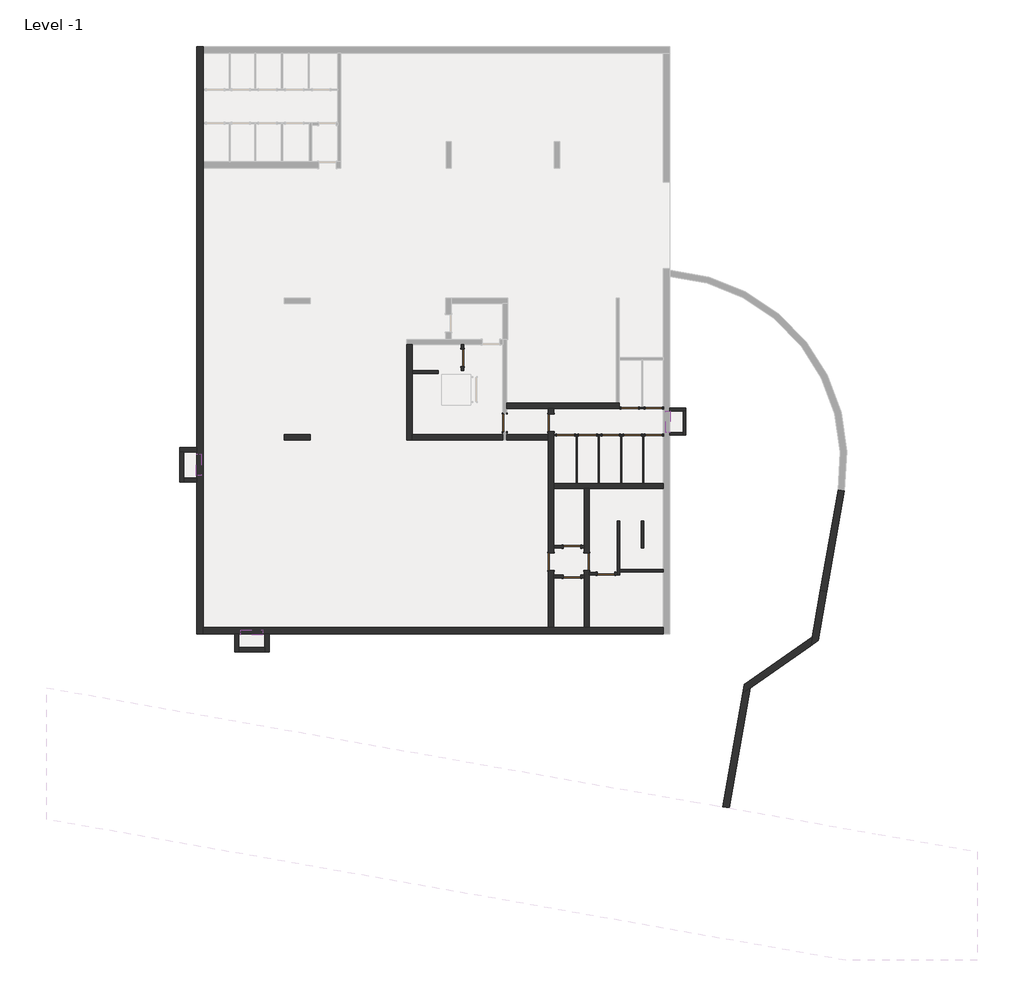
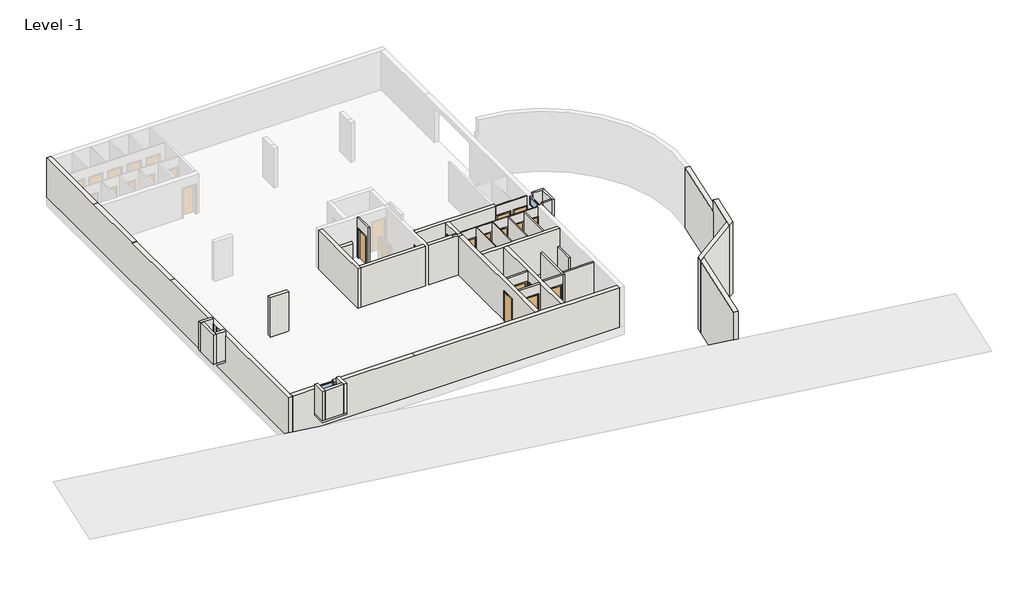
# One storey, part 1 of 2: 37 walls, 15 doors, 3 windows.
"""IFC4 building model written with IfcOpenShell, lengths in millimetres."""

from ifc_helpers import new_model, si_unit, frame, origin, place, context, project, spatial, polyline, outline, extrude, faceted_brep, transform, mapped, element, save
from components import standard_door_sd_800x2000_0203fe2f, standard_door_sd_800x2000_125e4961, standard_door_sd_800x2000_3ea96131, standard_door_sd_800x2000_59be3646, standard_door_sd_800x2000_e6dfe1af, standard_door_sd_800x2000_b5de6549, standard_door_sd_800x2000_c4456082, window_043d948e, window_b9e24ea9

model = new_model("IFC4")

# Units and contexts
model_context = context("Model", 3, world=origin())
ifc_project = project(units=[si_unit("LENGTHUNIT", "METRE", prefix="MILLI")], contexts=[model_context])

# Site, building, storey
site = spatial("IfcSite", under=ifc_project)
building = spatial("IfcBuilding", under=site)
storey = spatial("IfcBuildingStorey", under=building, Name="Level -1", Elevation=-3100.0)

# Doors
placement = place(None, origin())
standard_door_sd_800x2000_shape = standard_door_sd_800x2000_0203fe2f(model_context)
element("IfcDoor", 1, ObjectType="Standard Door : SD 800x2000", at=placement, inside=storey, context=model_context, shape_type="MappedRepresentation", body=[
    mapped(standard_door_sd_800x2000_shape, transform((5451.4088399, -7707.3709459, -3100.0), x_axis=(0.0, 0.9999999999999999, 0.0), y_axis=(-0.9999999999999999, 0.0, 0.0), z_axis=(0.0, 0.0, 1.0))),
])
standard_door_sd_800x2000_2_shape = standard_door_sd_800x2000_125e4961(model_context)
element("IfcDoor", 2, ObjectType="Standard Door : SD 800x2000", at=placement, inside=storey, context=model_context, shape_type="MappedRepresentation", body=[
    mapped(standard_door_sd_800x2000_2_shape, transform((4474.7387088, -1857.3709459, -3100.0), x_axis=(-1.0, 0.0, 0.0), y_axis=(0.0, -1.0, 0.0), z_axis=(0.0, 0.0, 1.0))),
])
element("IfcDoor", 3, ObjectType="Standard Door : SD 800x2000", at=placement, inside=storey, context=model_context, shape_type="MappedRepresentation", body=[
    mapped(standard_door_sd_800x2000_2_shape, transform((5492.9551797, -1857.3709459, -3100.0), x_axis=(-1.0, 0.0, 0.0), y_axis=(0.0, -1.0, 0.0), z_axis=(0.0, 0.0, 1.0))),
])
element("IfcDoor", 4, ObjectType="Standard Door : SD 800x2000", at=placement, inside=storey, context=model_context, shape_type="MappedRepresentation", body=[
    mapped(standard_door_sd_800x2000_2_shape, transform((6562.3417933, -1857.3709459, -3100.0), x_axis=(-1.0, 0.0, 0.0), y_axis=(0.0, -1.0, 0.0), z_axis=(0.0, 0.0, 1.0))),
])
element("IfcDoor", 5, ObjectType="Standard Door : SD 800x2000", at=placement, inside=storey, context=model_context, shape_type="MappedRepresentation", body=[
    mapped(standard_door_sd_800x2000_2_shape, transform((7572.2233412, -1857.3709459, -3100.0), x_axis=(-1.0, 0.0, 0.0), y_axis=(0.0, -1.0, 0.0), z_axis=(0.0, 0.0, 1.0))),
])
element("IfcDoor", 6, ObjectType="Standard Door : SD 800x2000", at=placement, inside=storey, context=model_context, shape_type="MappedRepresentation", body=[
    mapped(standard_door_sd_800x2000_2_shape, transform((8546.4088399, -1857.3709459, -3100.0), x_axis=(-1.0, 0.0, 0.0), y_axis=(0.0, -1.0, 0.0), z_axis=(0.0, 0.0, 1.0))),
])
standard_door_sd_800x2000_3_shape = standard_door_sd_800x2000_3ea96131(model_context)
element("IfcDoor", 7, ObjectType="Standard Door : SD 800x2000", at=placement, inside=storey, context=model_context, shape_type="MappedRepresentation", body=[
    mapped(standard_door_sd_800x2000_3_shape, transform((8546.4088399, -607.3709459, -3100.0), x_axis=(-0.9999999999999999, 0.0, 0.0), y_axis=(0.0, -0.9999999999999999, 0.0), z_axis=(0.0, 0.0, 1.0))),
])
element("IfcDoor", 8, ObjectType="Standard Door : SD 800x2000", at=placement, inside=storey, context=model_context, shape_type="MappedRepresentation", body=[
    mapped(standard_door_sd_800x2000_3_shape, transform((7438.078971, -607.3709459, -3100.0), x_axis=(-0.9999999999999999, 0.0, 0.0), y_axis=(0.0, -0.9999999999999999, 0.0), z_axis=(0.0, 0.0, 1.0))),
])
standard_door_sd_800x2000_4_shape = standard_door_sd_800x2000_59be3646(model_context)
element("IfcDoor", 9, ObjectType="Standard Door : SD 800x2000", at=placement, inside=storey, context=model_context, shape_type="MappedRepresentation", body=[
    mapped(standard_door_sd_800x2000_4_shape, transform((3801.4088399, -1292.8016415, -3100.0), x_axis=(0.0, 1.0, 0.0), y_axis=(-1.0, 0.0, 0.0), z_axis=(0.0, 0.0, 1.0))),
])
element("IfcDoor", 10, ObjectType="Standard Door : SD 800x2000", at=placement, inside=storey, context=model_context, shape_type="MappedRepresentation", body=[
    mapped(standard_door_sd_800x2000_4_shape, transform((3801.4088399, -7707.3709459, -3100.0), x_axis=(0.0, 1.0, 0.0), y_axis=(-1.0, 0.0, 0.0), z_axis=(0.0, 0.0, 1.0))),
])
standard_door_sd_800x2000_5_shape = standard_door_sd_800x2000_e6dfe1af(model_context)
element("IfcDoor", 11, ObjectType="Standard Door : SD 800x2000", at=placement, inside=storey, context=model_context, shape_type="MappedRepresentation", body=[
    mapped(standard_door_sd_800x2000_5_shape, transform((1662.8088399, -1292.8016415, -3100.0), x_axis=(0.0, 0.9999999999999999, 0.0), y_axis=(-0.9999999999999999, 0.0, 0.0), z_axis=(0.0, 0.0, 1.0))),
])
standard_door_sd_800x2000_6_shape = standard_door_sd_800x2000_b5de6549(model_context)
element("IfcDoor", 12, ObjectType="Standard Door : SD 800x2000", at=placement, inside=storey, context=model_context, shape_type="MappedRepresentation", body=[
    mapped(standard_door_sd_800x2000_6_shape, transform((4766.4088399, -8392.3709459, -3100.0), x_axis=(-1.0, 0.0, 0.0), y_axis=(0.0, -1.0, 0.0), z_axis=(0.0, 0.0, 1.0))),
])
element("IfcDoor", 13, ObjectType="Standard Door : SD 800x2000", at=placement, inside=storey, context=model_context, shape_type="MappedRepresentation", body=[
    mapped(standard_door_sd_800x2000_6_shape, transform((-297.1911601, 1717.6290541, -3100.0), x_axis=(0.0, -1.0, 0.0), y_axis=(1.0, 0.0, 0.0), z_axis=(0.0, 0.0, 1.0))),
])
standard_door_sd_800x2000_7_shape = standard_door_sd_800x2000_c4456082(model_context)
element("IfcDoor", 14, ObjectType="Standard Door : SD 800x2000", at=placement, inside=storey, context=model_context, shape_type="MappedRepresentation", body=[
    mapped(standard_door_sd_800x2000_7_shape, transform((4766.4088399, -7022.3709459, -3100.0), x_axis=(-1.0, 0.0, 0.0), y_axis=(0.0, -1.0, 0.0), z_axis=(0.0, 0.0, 1.0))),
])
element("IfcDoor", 15, ObjectType="Standard Door : SD 800x2000", at=placement, inside=storey, context=model_context, shape_type="MappedRepresentation", body=[
    mapped(standard_door_sd_800x2000_7_shape, transform((6336.4088399, -8272.3709459, -3100.0), x_axis=(1.0, 0.0, 0.0), y_axis=(0.0, 1.0, 0.0), z_axis=(0.0, 0.0, 1.0))),
])

# Walls
element("IfcWall", 16, ObjectType="Exterior - STB 200mm", at=placement, inside=storey, context=model_context, shape_type="Brep", body=[
    faceted_brep([(-10823.5911601, -11052.3709459, -2100.0), (-10823.5911601, -11872.3709459, -2100.0), (-10823.5911601, -11872.3709459, -91.0), (-10823.5911601, -11052.3709459, -91.0), (-10623.5911601, -11052.3709459, -2100.0), (-10623.5911601, -11052.3709459, -91.0), (-10623.5911601, -11672.3709459, -91.0), (-10623.5911601, -11872.3709459, -91.0), (-10623.5911601, -11872.3709459, -2100.0), (-10623.5911601, -11672.3709459, -2100.0)], [[[0, 1, 2, 3]], [[4, 5, 6, 7, 8, 9]], [[1, 0, 4, 9, 8]], [[2, 1, 8, 7]], [[0, 3, 5, 4]], [[3, 2, 7, 6, 5]]]),
])
element("IfcWall", 17, ObjectType="Exterior - STB 200mm", at=placement, inside=storey, context=model_context, shape_type="Brep", body=[
    faceted_brep([(-9223.5911601, -11872.3709459, -2100.0), (-9223.5911601, -11052.3709459, -2100.0), (-9223.5911601, -11052.3709459, -91.0), (-9223.5911601, -11872.3709459, -91.0), (-9423.5911601, -11872.3709459, -2100.0), (-9423.5911601, -11872.3709459, -91.0), (-9423.5911601, -11672.3709459, -91.0), (-9423.5911601, -11052.3709459, -91.0), (-9423.5911601, -11052.3709459, -2100.0), (-9423.5911601, -11672.3709459, -2100.0)], [[[0, 1, 2, 3]], [[4, 5, 6, 7, 8, 9]], [[1, 0, 4, 9, 8]], [[0, 3, 5, 4]], [[2, 1, 8, 7]], [[3, 2, 7, 6, 5]]]),
])
element("IfcWall", 18, ObjectType="Exterior - STB 200mm", at=placement, inside=storey, context=model_context, shape_type="SweptSolid", body=[
    extrude(outline(polyline([(-9423.5911601, -11872.3709459), (-10623.5911601, -11872.3709459), (-10623.5911601, -11672.3709459), (-9423.5911601, -11672.3709459), (-9423.5911601, -11872.3709459)])), frame((0.0, 0.0, -2100.0), z_axis=(0.0, 0.0, 1.0), x_axis=(1.0, 0.0, 0.0)), (0.0, 0.0, 1.0), 2009.0),
])
element("IfcWall", 19, ObjectType="Exterior - STB 200mm", at=placement, inside=storey, context=model_context, shape_type="Brep", body=[
    faceted_brep([(-12557.1911601, -2432.3709459, -2100.0), (-13363.5911601, -2432.3709459, -2100.0), (-13363.5911601, -2432.3709459, -91.0), (-12557.1911601, -2432.3709459, -91.0), (-12557.1911601, -2632.3709459, -2100.0), (-12557.1911601, -2632.3709459, -91.0), (-13163.5911601, -2632.3709459, -91.0), (-13363.5911601, -2632.3709459, -91.0), (-13363.5911601, -2632.3709459, -2100.0), (-13163.5911601, -2632.3709459, -2100.0)], [[[0, 1, 2, 3]], [[4, 5, 6, 7, 8, 9]], [[1, 0, 4, 9, 8]], [[2, 1, 8, 7]], [[0, 3, 5, 4]], [[3, 2, 7, 6, 5]]]),
])
element("IfcWall", 20, ObjectType="Exterior - STB 200mm", at=placement, inside=storey, context=model_context, shape_type="Brep", body=[
    faceted_brep([(-13363.5911601, -4032.3709459, -2100.0), (-13363.5911601, -2632.3709459, -2100.0), (-13163.5911601, -2632.3709459, -2100.0), (-13163.5911601, -3832.3709459, -2100.0), (-13163.5911601, -4032.3709459, -2100.0), (-13363.5911601, -4032.3709459, -91.0), (-13363.5911601, -2632.3709459, -91.0), (-13163.5911601, -2632.3709459, -91.0), (-13163.5911601, -3832.3709459, -91.0), (-13163.5911601, -4032.3709459, -91.0)], [[[0, 1, 2, 3, 4]], [[1, 0, 5, 6]], [[2, 7, 8, 9, 4, 3]], [[1, 6, 7, 2]], [[5, 0, 4, 9]], [[6, 5, 9, 8, 7]]]),
])
element("IfcWall", 21, ObjectType="Exterior - STB 200mm", at=placement, inside=storey, context=model_context, shape_type="SweptSolid", body=[
    extrude(outline(polyline([(-12557.1911601, -4032.3709459), (-13163.5911601, -4032.3709459), (-13163.5911601, -3832.3709459), (-12557.1911601, -3832.3709459), (-12557.1911601, -4032.3709459)])), frame((0.0, 0.0, -2100.0), z_axis=(0.0, 0.0, 1.0), x_axis=(1.0, 0.0, 0.0)), (0.0, 0.0, 1.0), 2009.0),
])
element("IfcWall", 22, ObjectType="Exterior - STB 300mm", at=placement, inside=storey, context=model_context, shape_type="Brep", body=[
    faceted_brep([(-12257.1911601, 16107.6290541, -3100.0), (-12257.1911601, 15807.6290541, -3100.0), (-12257.1911601, 12592.6290541, -3100.0), (-12257.1911601, 12542.6290541, -3100.0), (-12257.1911601, 10787.6290541, -3100.0), (-12257.1911601, 10487.6290541, -3100.0), (-12257.1911601, -10752.3709459, -3100.0), (-12257.1911601, -11052.3709459, -3100.0), (-12557.1911601, -11052.3709459, -3100.0), (-12557.1911601, 16107.6290541, -3100.0), (-12257.1911601, 16107.6290541, -409.0), (-12257.1911601, 16107.6290541, -400.0), (-12257.1911601, 10867.6290541, -400.0), (-12257.1911601, 10787.6290541, -400.0), (-12257.1911601, 10487.6290541, -400.0), (-12257.1911601, 6467.6290541, -400.0), (-12257.1911601, 6467.6290541, -409.0), (-12257.1911601, 2217.6290541, -409.0), (-12257.1911601, 2217.6290541, -400.0), (-12257.1911601, -2132.3709459, -400.0), (-12257.1911601, -10752.3709459, -400.0), (-12257.1911601, -11052.3709459, -400.0), (-12257.1911601, -3732.3709459, -1409.0), (-12257.1911601, -3732.3709459, -409.0), (-12257.1911601, -2732.3709459, -409.0), (-12257.1911601, -2732.3709459, -1409.0), (-12557.1911601, -11052.3709459, -400.0), (-12557.1911601, -2132.3709459, -400.0), (-12557.1911601, 2217.6290541, -400.0), (-12557.1911601, 2217.6290541, -409.0), (-12557.1911601, 6467.6290541, -409.0), (-12557.1911601, 6467.6290541, -400.0), (-12557.1911601, 10867.6290541, -400.0), (-12557.1911601, 16107.6290541, -400.0), (-12557.1911601, -3732.3709459, -409.0), (-12557.1911601, -3732.3709459, -1409.0), (-12557.1911601, -2732.3709459, -1409.0), (-12557.1911601, -2732.3709459, -409.0)], [[[0, 1, 2, 3, 4, 5, 6, 7, 8, 9]], [[7, 6, 5, 4, 3, 2, 1, 0, 10, 11, 12, 13, 14, 15, 16, 17, 18, 19, 20, 21], [22, 23, 24, 25]], [[9, 8, 26, 27, 28, 29, 30, 31, 32, 33], [34, 35, 36, 37]], [[11, 10, 0, 9, 33]], [[7, 21, 26, 8]], [[26, 21, 20, 19, 27]], [[11, 33, 32, 12]], [[15, 14, 13, 12, 32, 31]], [[19, 18, 28, 27]], [[23, 22, 35, 34]], [[24, 23, 34, 37]], [[25, 24, 37, 36]], [[22, 25, 36, 35]], [[29, 17, 16, 30]], [[30, 16, 15, 31]], [[17, 29, 28, 18]]]),
])
element("IfcWall", 23, ObjectType="Exterior - STB 300mm", at=placement, inside=storey, context=model_context, shape_type="Brep", body=[
    faceted_brep([(-12257.1911601, -10752.3709459, -3100.0), (3676.4088399, -10752.3709459, -3100.0), (3926.4088399, -10752.3709459, -3100.0), (5326.4088399, -10752.3709459, -3100.0), (5576.4088399, -10752.3709459, -3100.0), (8982.8088399, -10752.3709459, -3100.0), (8982.8088399, -11052.3709459, -3100.0), (-12257.1911601, -11052.3709459, -3100.0), (-12257.1911601, -10752.3709459, -400.0), (-10523.5911601, -10752.3709459, -400.0), (-10523.5911601, -10752.3709459, -1400.0), (-9523.5911601, -10752.3709459, -1400.0), (-9523.5911601, -10752.3709459, -400.0), (-4337.1962165, -10752.3709459, -400.0), (3676.4088399, -10752.3709459, -400.0), (3926.4088399, -10752.3709459, -400.0), (5326.4088399, -10752.3709459, -400.0), (5576.4088399, -10752.3709459, -400.0), (8982.8088399, -10752.3709459, -400.0), (8982.8088399, -11052.3709459, -400.0), (-4337.1962165, -11052.3709459, -400.0), (-9523.5911601, -11052.3709459, -400.0), (-9523.5911601, -11052.3709459, -1400.0), (-10523.5911601, -11052.3709459, -1400.0), (-10523.5911601, -11052.3709459, -400.0), (-12257.1911601, -11052.3709459, -400.0)], [[[0, 1, 2, 3, 4, 5, 6, 7]], [[5, 4, 3, 2, 1, 0, 8, 9, 10, 11, 12, 13, 14, 15, 16, 17, 18]], [[7, 6, 19, 20, 21, 22, 23, 24, 25]], [[5, 18, 19, 6]], [[8, 0, 7, 25]], [[8, 25, 24, 9]], [[20, 13, 12, 21]], [[18, 17, 16, 15, 14, 13, 20, 19]], [[11, 22, 21, 12]], [[23, 10, 9, 24]], [[22, 11, 10, 23]]]),
])
element("IfcWall", 24, ObjectType="Exterior - STB 300mm", at=placement, inside=storey, context=model_context, shape_type="Brep", body=[
    faceted_brep([(17064.3928143, -4387.7782943, -3100.0), (16245.3632549, -9032.7257446, -3100.0), (16245.3632549, -9032.7257446, 1000.0), (16262.7280726, -8934.2449693, 1000.0), (17064.3928143, -4387.7782943, 1000.0), (17360.0752435, -4438.5110541, -3100.0), (17360.0752435, -4438.5110541, 1000.0), (16558.1703985, -8986.3394226, 1000.0), (16540.8055808, -9084.8201979, 1000.0), (16540.8055808, -9084.8201979, -3100.0)], [[[0, 1, 2, 3, 4]], [[5, 6, 7, 8, 9]], [[1, 0, 5, 9]], [[4, 3, 2, 8, 7, 6]], [[0, 4, 6, 5]], [[1, 9, 8, 2]]]),
])
element("IfcWall", 25, ObjectType="Exterior - STB 300mm", at=placement, inside=storey, context=model_context, shape_type="Brep", body=[
    faceted_brep([(12664.6339226, -13791.370603, -3100.0), (13012.1707018, -13548.0227304, -3100.0), (15792.4649355, -11601.2397495, -3100.0), (15792.4649355, -11601.2397495, 1800.0), (13012.1707018, -13548.0227304, 1800.0), (12664.6339226, -13791.370603, 1800.0), (12738.306605, -13373.5520588, -3100.0), (12738.306605, -13373.5520588, 1800.0), (15866.1376178, -11183.4212053, 1800.0), (15866.1376178, -11183.4212053, -3100.0)], [[[0, 1, 2, 3, 4, 5]], [[6, 7, 8, 9]], [[2, 1, 0, 6, 9]], [[5, 4, 3, 8, 7]], [[0, 5, 7, 6]], [[3, 2, 9, 8]]]),
])
element("IfcWall", 26, ObjectType="Exterior - STB 300mm", at=placement, inside=storey, context=model_context, shape_type="SweptSolid", body=[
    extrude(outline(polyline([(13012.1707018, -13548.0227304), (12034.293416, -19093.8404034), (11738.8510901, -19041.7459501), (12664.6339226, -13791.370603), (13012.1707018, -13548.0227304)])), frame((0.0, 0.0, -3100.0), z_axis=(0.0, 0.0, 1.0), x_axis=(1.0, 0.0, 0.0)), (0.0, 0.0, 1.0), 4900.0),
])
element("IfcWall", 27, ObjectType="Exterior - STB 300mm", at=placement, inside=storey, context=model_context, shape_type="Brep", body=[
    faceted_brep([(16245.3632549, -9032.7257446, 1000.0), (16245.3632549, -9032.7257446, -3100.0), (15866.1376178, -11183.4212053, -3100.0), (15792.4649355, -11601.2397495, -3100.0), (15792.4649355, -11601.2397495, 1800.0), (15866.1376178, -11183.4212053, 1800.0), (16227.9984371, -9131.2065199, 1800.0), (16262.7280726, -8934.2449693, 1800.0), (16262.7280726, -8934.2449693, 1000.0), (16540.8055808, -9084.8201979, -3100.0), (16540.8055808, -9084.8201979, 1000.0), (16558.1703985, -8986.3394226, 1000.0), (16558.1703985, -8986.3394226, 1800.0), (16140.0017147, -11357.8918769, 1800.0), (16140.0017147, -11357.8918769, -3100.0)], [[[0, 1, 2, 3, 4, 5, 6, 7, 8]], [[9, 10, 11, 12, 13, 14]], [[3, 2, 1, 9, 14]], [[7, 6, 5, 4, 13, 12]], [[4, 3, 14, 13]], [[0, 10, 9, 1]], [[8, 11, 10, 0]], [[8, 7, 12, 11]]]),
])
element("IfcWall", 28, ObjectType="Exterior - STB120mm", at=placement, inside=storey, context=model_context, shape_type="Brep", body=[
    faceted_brep([(9282.8088399, -732.3709482, -2100.0), (9916.4088399, -732.3709459, -2100.0), (10036.4088399, -732.3709455, -2100.0), (10036.4088399, -732.3709455, -270.0), (9916.4088399, -732.3709459, -270.0), (9362.8037835, -732.370948, -270.0), (9282.8088399, -732.3709482, -270.0), (9282.8088399, -732.3709482, -400.0), (9282.8088399, -732.3709482, -1000.0), (9282.8088399, -612.3709482, -2100.0), (9282.8088399, -612.3709482, -270.0), (9362.8037835, -612.370948, -270.0), (10036.4088399, -612.3709455, -270.0), (10036.4088399, -612.3709455, -2100.0)], [[[0, 1, 2, 3, 4, 5, 6, 7, 8]], [[9, 10, 11, 12, 13]], [[2, 1, 0, 9, 13]], [[3, 2, 13, 12]], [[0, 8, 7, 6, 10, 9]], [[6, 5, 11, 10]], [[5, 4, 3, 12, 11]]]),
])
element("IfcWall", 29, ObjectType="Exterior - STB120mm", at=placement, inside=storey, context=model_context, shape_type="Brep", body=[
    faceted_brep([(9916.4088399, -1852.3709459, -2100.0), (9916.4088399, -1732.3709459, -2100.0), (9916.4088399, -732.3709459, -2100.0), (10036.4088399, -732.3709455, -2100.0), (10036.4088399, -1852.3709459, -2100.0), (9916.4088399, -1852.3709459, -270.0), (9916.4088399, -1732.3709459, -270.0), (9916.4088399, -732.3709459, -270.0), (10036.4088399, -732.3709455, -270.0), (10036.4088399, -1852.3709459, -270.0)], [[[0, 1, 2, 3, 4]], [[2, 1, 0, 5, 6, 7]], [[3, 8, 9, 4]], [[2, 7, 8, 3]], [[5, 0, 4, 9]], [[7, 6, 5, 9, 8]]]),
])
element("IfcWall", 30, ObjectType="Exterior - STB120mm", at=placement, inside=storey, context=model_context, shape_type="Brep", body=[
    faceted_brep([(9916.4088399, -1732.3709459, -2100.0), (9282.8088399, -1732.3709459, -2100.0), (9282.8088399, -1732.3709459, -1000.0), (9282.8088399, -1732.3709459, -400.0), (9282.8088399, -1732.3709459, -270.0), (9362.8037835, -1732.3709459, -270.0), (9916.4088399, -1732.3709459, -270.0), (9916.4088399, -1852.3709459, -2100.0), (9916.4088399, -1852.3709459, -270.0), (9362.8037835, -1852.3709459, -270.0), (9282.8088399, -1852.3709459, -270.0), (9282.8088399, -1852.3709459, -2100.0)], [[[0, 1, 2, 3, 4, 5, 6]], [[7, 8, 9, 10, 11]], [[1, 0, 7, 11]], [[0, 6, 8, 7]], [[4, 3, 2, 1, 11, 10]], [[5, 4, 10, 9]], [[6, 5, 9, 8]]]),
])
element("IfcWall", 31, ObjectType="Interior - 100mm", at=placement, inside=storey, context=model_context, shape_type="SweptSolid", body=[
    extrude(outline(polyline([(7976.4088399, -7062.3709459), (7976.4088399, -5832.3709459), (8076.4088399, -5832.3709459), (8076.4088399, -7062.3709459), (7976.4088399, -7062.3709459)])), frame((0.0, 0.0, -3100.0), z_axis=(0.0, 0.0, 1.0), x_axis=(1.0, 0.0, 0.0)), (0.0, 0.0, 1.0), 2700.0),
])
element("IfcWall", 32, ObjectType="Interior - 120mm", at=placement, inside=storey, context=model_context, shape_type="SweptSolid", body=[
    extrude(outline(polyline([(-3100.0, 3926.4088399), (-3100.0, 4366.4088399), (-1100.0, 4366.4088399), (-1100.0, 5166.4088399), (-3100.0, 5166.4088399), (-3100.0, 5326.4088399), (-400.0, 5326.4088399), (-400.0, 3926.4088399), (-3100.0, 3926.4088399)])), frame((0.0, -8452.3709459, 0.0), z_axis=(0.0, 1.0, 0.0), x_axis=(0.0, 0.0, 1.0)), (0.0, 0.0, 1.0), 120.0),
])
element("IfcWall", 33, ObjectType="Interior - 120mm", at=placement, inside=storey, context=model_context, shape_type="SweptSolid", body=[
    extrude(outline(polyline([(-3100.0, 3926.4088399), (-3100.0, 4366.4088399), (-1100.0, 4366.4088399), (-1100.0, 5166.4088399), (-3100.0, 5166.4088399), (-3100.0, 5326.4088399), (-400.0, 5326.4088399), (-400.0, 3926.4088399), (-3100.0, 3926.4088399)])), frame((0.0, -7082.3709459, 0.0), z_axis=(0.0, 1.0, 0.0), x_axis=(0.0, 0.0, 1.0)), (0.0, 0.0, 1.0), 120.0),
])
element("IfcWall", 34, ObjectType="Interior - 120mm", at=placement, inside=storey, context=model_context, shape_type="SweptSolid", body=[
    extrude(outline(polyline([(6976.4088399, -8062.3709459), (8982.8088399, -8062.3709459), (8982.8088399, -8182.3709459), (6976.4088399, -8182.3709459), (6976.4088399, -8062.3709459)])), frame((0.0, 0.0, -3100.0), z_axis=(0.0, 0.0, 1.0), x_axis=(1.0, 0.0, 0.0)), (0.0, 0.0, 1.0), 2700.0),
])
element("IfcWall", 35, ObjectType="Interior - 120mm", at=placement, inside=storey, context=model_context, shape_type="Brep", body=[
    faceted_brep([(6976.4088399, -8332.3709459, -3100.0), (6976.4088399, -8182.3709459, -3100.0), (6976.4088399, -8062.3709459, -3100.0), (6976.4088399, -5832.3709459, -3100.0), (6976.4088399, -5832.3709459, -400.0), (6976.4088399, -8052.3709459, -400.0), (6976.4088399, -8062.3709459, -400.0), (6976.4088399, -8182.3709459, -400.0), (6976.4088399, -8332.3709459, -400.0), (6856.4088399, -8332.3709459, -3100.0), (6856.4088399, -8332.3709459, -400.0), (6856.4088399, -8212.3709459, -400.0), (6856.4088399, -5832.3709459, -400.0), (6856.4088399, -5832.3709459, -3100.0), (6856.4088399, -8212.3709459, -3100.0)], [[[0, 1, 2, 3, 4, 5, 6, 7, 8]], [[9, 10, 11, 12, 13, 14]], [[3, 2, 1, 0, 9, 14, 13]], [[4, 3, 13, 12]], [[0, 8, 10, 9]], [[8, 7, 6, 5, 4, 12, 11, 10]]]),
])
element("IfcWall", 36, ObjectType="Interior - 120mm", at=placement, inside=storey, context=model_context, shape_type="SweptSolid", body=[
    extrude(outline(polyline([(-1100.0, 6736.4088399), (-3100.0, 6736.4088399), (-3100.0, 6856.4088399), (-400.0, 6856.4088399), (-400.0, 5576.4088399), (-3100.0, 5576.4088399), (-3100.0, 5936.4088399), (-1100.0, 5936.4088399), (-1100.0, 6736.4088399)])), frame((0.0, -8332.3709459, 0.0), z_axis=(0.0, 1.0, 0.0), x_axis=(0.0, 0.0, 1.0)), (0.0, 0.0, 1.0), 120.0),
])
element("IfcWall", 37, ObjectType="Interior - 120mm", at=placement, inside=storey, context=model_context, shape_type="SweptSolid", body=[
    extrude(outline(polyline([(1117.6290541, -955.5709175), (1117.6290541, -3100.0), (997.6290541, -3100.0), (997.6290541, -1031.2928427), (1117.6290541, -955.5709175)])), frame((-2607.1911601, 0.0, 0.0), z_axis=(1.0, 0.0, 0.0), x_axis=(0.0, 1.0, 0.0)), (0.0, 0.0, 1.0), 1199.9949436),
])
element("IfcWall", 38, ObjectType="Interior - 120mm", at=placement, inside=storey, context=model_context, shape_type="SweptSolid", body=[
    extrude(outline(polyline([(1317.6290541, -1100.0), (1317.6290541, -3100.0), (1117.6290541, -3100.0), (1117.6290541, -400.0), (2317.6290541, -400.0), (2317.6290541, -3100.0), (2117.6290541, -3100.0), (2117.6290541, -1100.0), (1317.6290541, -1100.0)])), frame((-357.1911601, 0.0, 0.0), z_axis=(1.0, 0.0, 0.0), x_axis=(0.0, 1.0, 0.0)), (0.0, 0.0, 1.0), 120.0),
])
element("IfcWall", 39, ObjectType="Interior - 250mm", at=placement, inside=storey, context=model_context, shape_type="Brep", body=[
    faceted_brep([(-2607.1911601, -2082.3709459, -3100.0), (-2607.1911601, -1832.3709459, -3100.0), (-2607.1911601, 997.6290541, -3100.0), (-2607.1911601, 1117.6290541, -3100.0), (-2607.1911601, 2317.6290541, -3100.0), (-2607.1911601, 2317.6290541, -400.0), (-2607.1911601, -1832.3709459, -400.0), (-2607.1911601, -2082.3709459, -400.0), (-2857.1911601, -2082.3709459, -3100.0), (-2857.1911601, -2082.3709459, -400.0), (-2857.1911601, -732.3709459, -400.0), (-2857.1911601, 267.6290541, -400.0), (-2857.1911601, 2317.6290541, -400.0), (-2857.1911601, 2317.6290541, -3100.0)], [[[0, 1, 2, 3, 4, 5, 6, 7]], [[8, 9, 10, 11, 12, 13]], [[4, 3, 2, 1, 0, 8, 13]], [[0, 7, 9, 8]], [[5, 4, 13, 12]], [[7, 6, 5, 12, 11, 10, 9]]]),
])
element("IfcWall", 40, ObjectType="Interior - 250mm", at=placement, inside=storey, context=model_context, shape_type="Brep", body=[
    faceted_brep([(1562.8088399, -1832.3709459, -3100.0), (-2607.1911601, -1832.3709459, -3100.0), (-2607.1911601, -1832.3709459, -400.0), (362.8037835, -1832.3709459, -400.0), (1562.8088399, -1832.3709459, -400.0), (1562.8088399, -2082.3709459, -3100.0), (1562.8088399, -2082.3709459, -400.0), (592.8037835, -2082.3709459, -400.0), (-886.4381272, -2082.3709459, -400.0), (-2607.1911601, -2082.3709459, -400.0), (-2607.1911601, -2082.3709459, -3100.0)], [[[0, 1, 2, 3, 4]], [[5, 6, 7, 8, 9, 10]], [[1, 0, 5, 10]], [[2, 1, 10, 9]], [[0, 4, 6, 5]], [[4, 3, 2, 9, 8, 7, 6]]]),
])
element("IfcWall", 41, ObjectType="Interior - 250mm", at=placement, inside=storey, context=model_context, shape_type="Brep", body=[
    faceted_brep([(1762.8088399, -632.3709459, -3100.0), (3676.4088399, -632.3709459, -3100.0), (3926.4088399, -632.3709459, -3100.0), (6946.4088399, -632.3709459, -3100.0), (6946.4088399, -632.3709459, -400.0), (3926.4088399, -632.3709459, -400.0), (3676.4088399, -632.3709459, -400.0), (1762.8088399, -632.3709459, -400.0), (1762.8088399, -382.3709459, -3100.0), (1762.8088399, -382.3709459, -400.0), (2012.8037835, -382.3709459, -400.0), (6826.4088399, -382.3709459, -400.0), (6946.4088399, -382.3709459, -400.0), (6946.4088399, -382.3709459, -3100.0), (6826.4088399, -382.3709459, -3100.0), (6946.4088399, -582.3709459, -3100.0), (6946.4088399, -582.3709459, -400.0)], [[[0, 1, 2, 3, 4, 5, 6, 7]], [[8, 9, 10, 11, 12, 13, 14]], [[3, 2, 1, 0, 8, 14, 13, 15]], [[4, 3, 15, 13, 12, 16]], [[0, 7, 9, 8]], [[7, 6, 5, 4, 16, 12, 11, 10, 9]]]),
])
element("IfcWall", 42, ObjectType="Interior - 250mm", at=placement, inside=storey, context=model_context, shape_type="Brep", body=[
    faceted_brep([(3926.4088399, -632.3709459, -3100.0), (3926.4088399, -892.8016415, -3100.0), (3676.4088399, -892.8016415, -3100.0), (3676.4088399, -632.3709459, -3100.0), (3926.4088399, -1692.8016415, -3100.0), (3926.4088399, -1832.3709459, -3100.0), (3926.4088399, -1882.3709459, -3100.0), (3926.4088399, -4082.3709459, -3100.0), (3926.4088399, -4332.3709459, -3100.0), (3926.4088399, -6962.3709459, -3100.0), (3926.4088399, -7082.3709459, -3100.0), (3926.4088399, -7307.3709459, -3100.0), (3676.4088399, -7307.3709459, -3100.0), (3676.4088399, -2082.3709459, -3100.0), (3676.4088399, -1832.3709459, -3100.0), (3676.4088399, -1692.8016415, -3100.0), (3926.4088399, -8107.3709459, -3100.0), (3926.4088399, -8332.3709459, -3100.0), (3926.4088399, -8452.3709459, -3100.0), (3926.4088399, -10752.3709459, -3100.0), (3676.4088399, -10752.3709459, -3100.0), (3676.4088399, -8107.3709459, -3100.0), (3676.4088399, -7307.3709459, -1100.0), (3676.4088399, -8107.3709459, -1100.0), (3676.4088399, -10752.3709459, -400.0), (3676.4088399, -2132.3709459, -400.0), (3676.4088399, -2082.3709459, -400.0), (3676.4088399, -1932.3709459, -400.0), (3676.4088399, -1832.3709459, -400.0), (3676.4088399, -632.3709459, -400.0), (3676.4088399, -892.8016415, -1100.0), (3676.4088399, -1692.8016415, -1100.0), (3926.4088399, -7307.3709459, -1100.0), (3926.4088399, -1692.8016415, -1100.0), (3926.4088399, -892.8016415, -1100.0), (3926.4088399, -632.3709459, -400.0), (3926.4088399, -1832.3709459, -400.0), (3926.4088399, -1882.3709459, -400.0), (3926.4088399, -1932.3709459, -400.0), (3926.4088399, -2132.3709459, -400.0), (3926.4088399, -4082.3709459, -400.0), (3926.4088399, -4332.3709459, -400.0), (3926.4088399, -6962.3709459, -400.0), (3926.4088399, -7082.3709459, -400.0), (3926.4088399, -8332.3709459, -400.0), (3926.4088399, -8452.3709459, -400.0), (3926.4088399, -10752.3709459, -400.0), (3926.4088399, -8107.3709459, -1100.0)], [[[0, 1, 2, 3]], [[4, 5, 6, 7, 8, 9, 10, 11, 12, 13, 14, 15]], [[16, 17, 18, 19, 20, 21]], [[15, 14, 13, 12, 22, 23, 21, 20, 24, 25, 26, 27, 28, 29, 3, 2, 30, 31]], [[32, 11, 10, 9, 8, 7, 6, 5, 4, 33, 34, 1, 0, 35, 36, 37, 38, 39, 40, 41, 42, 43, 44, 45, 46, 19, 18, 17, 16, 47]], [[24, 20, 19, 46]], [[3, 29, 35, 0]], [[27, 26, 25, 39, 38]], [[29, 28, 27, 38, 37, 36, 35]], [[25, 24, 46, 45, 44, 43, 42, 41, 40, 39]], [[30, 2, 1, 34]], [[31, 30, 34, 33]], [[15, 31, 33, 4]], [[22, 12, 11, 32]], [[23, 22, 32, 47]], [[21, 23, 47, 16]]]),
])
element("IfcWall", 43, ObjectType="Interior - 250mm", at=placement, inside=storey, context=model_context, shape_type="Brep", body=[
    faceted_brep([(3926.4088399, -4332.3709459, -3100.0), (5326.4088399, -4332.3709459, -3100.0), (5576.4088399, -4332.3709459, -3100.0), (8982.8088399, -4332.3709459, -3100.0), (8982.8088399, -4332.3709459, -400.0), (5576.4088399, -4332.3709459, -400.0), (5326.4088399, -4332.3709459, -400.0), (3926.4088399, -4332.3709459, -400.0), (3926.4088399, -4082.3709459, -3100.0), (3926.4088399, -4082.3709459, -400.0), (4956.4088399, -4082.3709459, -400.0), (5006.4088399, -4082.3709459, -400.0), (5986.4088399, -4082.3709459, -400.0), (6036.4088399, -4082.3709459, -400.0), (7016.4088399, -4082.3709459, -400.0), (7066.4088399, -4082.3709459, -400.0), (8046.4088399, -4082.3709459, -400.0), (8096.4088399, -4082.3709459, -400.0), (8982.8088399, -4082.3709459, -400.0), (8982.8088399, -4082.3709459, -3100.0), (8096.4088399, -4082.3709459, -3100.0), (8046.4088399, -4082.3709459, -3100.0), (7066.4088399, -4082.3709459, -3100.0), (7016.4088399, -4082.3709459, -3100.0), (6036.4088399, -4082.3709459, -3100.0), (5986.4088399, -4082.3709459, -3100.0), (5006.4088399, -4082.3709459, -3100.0), (4956.4088399, -4082.3709459, -3100.0)], [[[0, 1, 2, 3, 4, 5, 6, 7]], [[8, 9, 10, 11, 12, 13, 14, 15, 16, 17, 18, 19, 20, 21, 22, 23, 24, 25, 26, 27]], [[3, 2, 1, 0, 8, 27, 26, 25, 24, 23, 22, 21, 20, 19]], [[4, 3, 19, 18]], [[0, 7, 9, 8]], [[7, 6, 5, 4, 18, 17, 16, 15, 14, 13, 12, 11, 10, 9]]]),
])
element("IfcWall", 44, ObjectType="Interior - 250mm", at=placement, inside=storey, context=model_context, shape_type="Brep", body=[
    faceted_brep([(5576.4088399, -4332.3709459, -3100.0), (5576.4088399, -7307.3709459, -3100.0), (5326.4088399, -7307.3709459, -3100.0), (5326.4088399, -7082.3709459, -3100.0), (5326.4088399, -6962.3709459, -3100.0), (5326.4088399, -4332.3709459, -3100.0), (5576.4088399, -8107.3709459, -3100.0), (5576.4088399, -8212.3709459, -3100.0), (5576.4088399, -8332.3709459, -3100.0), (5576.4088399, -10752.3709459, -3100.0), (5326.4088399, -10752.3709459, -3100.0), (5326.4088399, -8452.3709459, -3100.0), (5326.4088399, -8332.3709459, -3100.0), (5326.4088399, -8107.3709459, -3100.0), (5326.4088399, -7307.3709459, -1100.0), (5326.4088399, -8107.3709459, -1100.0), (5326.4088399, -10752.3709459, -400.0), (5326.4088399, -8452.3709459, -400.0), (5326.4088399, -8332.3709459, -400.0), (5326.4088399, -7082.3709459, -400.0), (5326.4088399, -6962.3709459, -400.0), (5326.4088399, -4332.3709459, -400.0), (5576.4088399, -7307.3709459, -1100.0), (5576.4088399, -4332.3709459, -400.0), (5576.4088399, -8212.3709459, -400.0), (5576.4088399, -8332.3709459, -400.0), (5576.4088399, -10752.3709459, -400.0), (5576.4088399, -8107.3709459, -1100.0)], [[[0, 1, 2, 3, 4, 5]], [[6, 7, 8, 9, 10, 11, 12, 13]], [[5, 4, 3, 2, 14, 15, 13, 12, 11, 10, 16, 17, 18, 19, 20, 21]], [[22, 1, 0, 23, 24, 25, 26, 9, 8, 7, 6, 27]], [[16, 10, 9, 26]], [[5, 21, 23, 0]], [[21, 20, 19, 18, 17, 16, 26, 25, 24, 23]], [[14, 2, 1, 22]], [[15, 14, 22, 27]], [[13, 15, 27, 6]]]),
])
element("IfcWall", 45, ObjectType="Interior - 250mm", at=placement, inside=storey, context=model_context, shape_type="Brep", body=[
    faceted_brep([(1762.8088399, -2082.3709459, -3100.0), (3676.4088399, -2082.3709459, -3100.0), (3676.4088399, -2082.3709459, -400.0), (3362.8037835, -2082.3709459, -400.0), (1762.8088399, -2082.3709459, -400.0), (1762.8088399, -1832.3709459, -3100.0), (1762.8088399, -1832.3709459, -400.0), (3676.4088399, -1832.3709459, -400.0), (3676.4088399, -1832.3709459, -3100.0), (1762.8088399, -1932.3709459, -400.0), (3676.4088399, -1932.3709459, -400.0), (3362.8037835, -1932.3709459, -400.0)], [[[0, 1, 2, 3, 4]], [[5, 6, 7, 8]], [[1, 0, 5, 8]], [[0, 4, 9, 6, 5]], [[2, 1, 8, 7, 10]], [[3, 2, 10, 11]], [[10, 7, 6, 9, 4, 3, 11]]]),
])
element("IfcWall", 46, ObjectType="Interior - 250mm", at=placement, inside=storey, context=model_context, shape_type="SweptSolid", body=[
    extrude(outline(polyline([(-8523.5911601, -1832.3709459), (-7323.5911601, -1832.3709459), (-7323.5911601, -2082.3709459), (-8523.5911601, -2082.3709459), (-8523.5911601, -1832.3709459)])), frame((0.0, 0.0, -3100.0), z_axis=(0.0, 0.0, 1.0), x_axis=(1.0, 0.0, 0.0)), (0.0, 0.0, 1.0), 2700.0),
])
element("IfcWall", 47, ObjectType="Interior - 500mm", at=placement, inside=storey, context=model_context, shape_type="Brep", body=[
    faceted_brep([(8982.8088399, -1832.3709459, -3100.0), (8982.8088399, -1882.3709459, -3100.0), (8946.4088399, -1882.3709459, -3100.0), (8946.4088399, -1832.3709459, -3100.0), (3926.4088399, -1882.3709459, -3100.0), (3926.4088399, -1832.3709459, -3100.0), (4074.7387088, -1832.3709459, -3100.0), (4074.7387088, -1882.3709459, -3100.0), (4874.7387088, -1882.3709459, -3100.0), (4874.7387088, -1832.3709459, -3100.0), (5092.9551797, -1832.3709459, -3100.0), (5092.9551797, -1882.3709459, -3100.0), (5006.4088399, -1882.3709459, -3100.0), (4956.4088399, -1882.3709459, -3100.0), (5892.9551797, -1882.3709459, -3100.0), (5892.9551797, -1832.3709459, -3100.0), (6162.3417933, -1832.3709459, -3100.0), (6162.3417933, -1882.3709459, -3100.0), (6036.4088399, -1882.3709459, -3100.0), (5986.4088399, -1882.3709459, -3100.0), (6962.3417933, -1882.3709459, -3100.0), (6962.3417933, -1832.3709459, -3100.0), (7172.2233412, -1832.3709459, -3100.0), (7172.2233412, -1882.3709459, -3100.0), (7066.4088399, -1882.3709459, -3100.0), (7016.4088399, -1882.3709459, -3100.0), (7972.2233412, -1882.3709459, -3100.0), (7972.2233412, -1832.3709459, -3100.0), (8146.4088399, -1832.3709459, -3100.0), (8146.4088399, -1882.3709459, -3100.0), (8096.4088399, -1882.3709459, -3100.0), (8046.4088399, -1882.3709459, -3100.0), (8982.8088399, -1882.3709459, -400.0), (8096.4088399, -1882.3709459, -400.0), (8046.4088399, -1882.3709459, -400.0), (7066.4088399, -1882.3709459, -400.0), (7016.4088399, -1882.3709459, -400.0), (6036.4088399, -1882.3709459, -400.0), (5986.4088399, -1882.3709459, -400.0), (5006.4088399, -1882.3709459, -400.0), (4956.4088399, -1882.3709459, -400.0), (3926.4088399, -1882.3709459, -400.0), (4074.7387088, -1882.3709459, -1100.0), (4874.7387088, -1882.3709459, -1100.0), (5092.9551797, -1882.3709459, -1100.0), (5892.9551797, -1882.3709459, -1100.0), (6162.3417933, -1882.3709459, -1100.0), (6962.3417933, -1882.3709459, -1100.0), (7172.2233412, -1882.3709459, -1100.0), (7972.2233412, -1882.3709459, -1100.0), (8146.4088399, -1882.3709459, -1100.0), (8946.4088399, -1882.3709459, -1100.0), (8982.8088399, -1832.3709459, -400.0), (8946.4088399, -1832.3709459, -1100.0), (8146.4088399, -1832.3709459, -1100.0), (7972.2233412, -1832.3709459, -1100.0), (7172.2233412, -1832.3709459, -1100.0), (6962.3417933, -1832.3709459, -1100.0), (6162.3417933, -1832.3709459, -1100.0), (5892.9551797, -1832.3709459, -1100.0), (5092.9551797, -1832.3709459, -1100.0), (4874.7387088, -1832.3709459, -1100.0), (4074.7387088, -1832.3709459, -1100.0), (3926.4088399, -1832.3709459, -400.0)], [[[0, 1, 2, 3]], [[4, 5, 6, 7]], [[8, 9, 10, 11, 12, 13]], [[14, 15, 16, 17, 18, 19]], [[20, 21, 22, 23, 24, 25]], [[26, 27, 28, 29, 30, 31]], [[1, 32, 33, 34, 35, 36, 37, 38, 39, 40, 41, 4, 7, 42, 43, 8, 13, 12, 11, 44, 45, 14, 19, 18, 17, 46, 47, 20, 25, 24, 23, 48, 49, 26, 31, 30, 29, 50, 51, 2]], [[52, 0, 3, 53, 54, 28, 27, 55, 56, 22, 21, 57, 58, 16, 15, 59, 60, 10, 9, 61, 62, 6, 5, 63]], [[32, 1, 0, 52]], [[4, 41, 63, 5]], [[41, 40, 39, 38, 37, 36, 35, 34, 33, 32, 52, 63]], [[42, 7, 6, 62]], [[43, 42, 62, 61]], [[8, 43, 61, 9]], [[44, 11, 10, 60]], [[45, 44, 60, 59]], [[14, 45, 59, 15]], [[46, 17, 16, 58]], [[47, 46, 58, 57]], [[20, 47, 57, 21]], [[48, 23, 22, 56]], [[49, 48, 56, 55]], [[26, 49, 55, 27]], [[54, 50, 29, 28]], [[50, 54, 53, 51]], [[51, 53, 3, 2]]]),
])
element("IfcWall", 48, ObjectType="Interior - 500mm", at=placement, inside=storey, context=model_context, shape_type="Brep", body=[
    faceted_brep([(8982.8088399, -582.3709459, -3100.0), (8982.8088399, -632.3709459, -3100.0), (8946.4088399, -632.3709459, -3100.0), (8946.4088399, -582.3709459, -3100.0), (6946.4088399, -632.3709459, -3100.0), (6946.4088399, -582.3709459, -3100.0), (7038.078971, -582.3709459, -3100.0), (7038.078971, -632.3709459, -3100.0), (8146.4088399, -582.3709459, -3100.0), (8146.4088399, -632.3709459, -3100.0), (7838.078971, -632.3709459, -3100.0), (7838.078971, -582.3709459, -3100.0), (7986.4088399, -582.3709459, -3100.0), (8036.4088399, -582.3709459, -3100.0), (8982.8088399, -632.3709459, -400.0), (6946.4088399, -632.3709459, -400.0), (7038.078971, -632.3709459, -1100.0), (7838.078971, -632.3709459, -1100.0), (8146.4088399, -632.3709459, -1100.0), (8946.4088399, -632.3709459, -1100.0), (8982.8088399, -582.3709459, -400.0), (8946.4088399, -582.3709459, -1100.0), (8146.4088399, -582.3709459, -1100.0), (7838.078971, -582.3709459, -1100.0), (7038.078971, -582.3709459, -1100.0), (6946.4088399, -582.3709459, -400.0), (7986.4088399, -582.3709459, -400.0), (8036.4088399, -582.3709459, -400.0)], [[[0, 1, 2, 3]], [[4, 5, 6, 7]], [[8, 9, 10, 11, 12, 13]], [[1, 14, 15, 4, 7, 16, 17, 10, 9, 18, 19, 2]], [[20, 0, 3, 21, 22, 8, 13, 12, 11, 23, 24, 6, 5, 25, 26, 27]], [[14, 1, 0, 20]], [[4, 15, 25, 5]], [[15, 14, 20, 27, 26, 25]], [[22, 18, 9, 8]], [[21, 19, 18, 22]], [[19, 21, 3, 2]], [[24, 16, 7, 6]], [[16, 24, 23, 17]], [[17, 23, 11, 10]]]),
])
element("IfcWall", 49, ObjectType="Interior - 500mm", at=placement, inside=storey, context=model_context, shape_type="SweptSolid", body=[
    extrude(outline(polyline([(8046.4088399, -4082.3709459), (8046.4088399, -1882.3709459), (8096.4088399, -1882.3709459), (8096.4088399, -4082.3709459), (8046.4088399, -4082.3709459)])), frame((0.0, 0.0, -3100.0), z_axis=(0.0, 0.0, 1.0), x_axis=(1.0, 0.0, 0.0)), (0.0, 0.0, 1.0), 2700.0),
])
element("IfcWall", 50, ObjectType="Interior - 500mm", at=placement, inside=storey, context=model_context, shape_type="SweptSolid", body=[
    extrude(outline(polyline([(7016.4088399, -4082.3709459), (7016.4088399, -1882.3709459), (7066.4088399, -1882.3709459), (7066.4088399, -4082.3709459), (7016.4088399, -4082.3709459)])), frame((0.0, 0.0, -3100.0), z_axis=(0.0, 0.0, 1.0), x_axis=(1.0, 0.0, 0.0)), (0.0, 0.0, 1.0), 2700.0),
])
element("IfcWall", 51, ObjectType="Interior - 500mm", at=placement, inside=storey, context=model_context, shape_type="SweptSolid", body=[
    extrude(outline(polyline([(5986.4088399, -4082.3709459), (5986.4088399, -1882.3709459), (6036.4088399, -1882.3709459), (6036.4088399, -4082.3709459), (5986.4088399, -4082.3709459)])), frame((0.0, 0.0, -3100.0), z_axis=(0.0, 0.0, 1.0), x_axis=(1.0, 0.0, 0.0)), (0.0, 0.0, 1.0), 2700.0),
])
element("IfcWall", 52, ObjectType="Interior - 500mm", at=placement, inside=storey, context=model_context, shape_type="SweptSolid", body=[
    extrude(outline(polyline([(4956.4088399, -4082.3709459), (4956.4088399, -1882.3709459), (5006.4088399, -1882.3709459), (5006.4088399, -4082.3709459), (4956.4088399, -4082.3709459)])), frame((0.0, 0.0, -3100.0), z_axis=(0.0, 0.0, 1.0), x_axis=(1.0, 0.0, 0.0)), (0.0, 0.0, 1.0), 2700.0),
])

# Windows
window_shape = window_043d948e(model_context)
element("IfcWindow", 53, ObjectType="AT Fenster 1-flügelig drehkipp : 1000/600 Kellerfenster", at=placement, inside=storey, context=model_context, shape_type="MappedRepresentation", body=[
    mapped(window_shape, transform((9132.8088399, -1232.3709482, -2000.0), x_axis=(0.0, -1.0, 0.0), y_axis=(1.0, 0.0, 0.0), z_axis=(0.0, 0.0, 1.0))),
])
window_2_shape = window_b9e24ea9(model_context)
element("IfcWindow", 54, ObjectType="AT Fenster 1-flügelig drehkipp : 1200/1000 Kellerfenster", at=placement, inside=storey, context=model_context, shape_type="MappedRepresentation", body=[
    mapped(window_2_shape, transform((-10023.5911601, -10902.3709459, -2600.0), x_axis=(-1.0, 0.0, 0.0), y_axis=(0.0, -1.0, 0.0), z_axis=(0.0, 0.0, 1.0))),
])
element("IfcWindow", 55, ObjectType="AT Fenster 1-flügelig drehkipp : 1200/1000 Kellerfenster", at=placement, inside=storey, context=model_context, shape_type="MappedRepresentation", body=[
    mapped(window_2_shape, transform((-12407.1911601, -3232.3709459, -2609.0), x_axis=(0.0, 1.0, 0.0), y_axis=(-1.0, 0.0, 0.0), z_axis=(0.0, 0.0, 1.0))),
])

save(model, "model.ifc")
